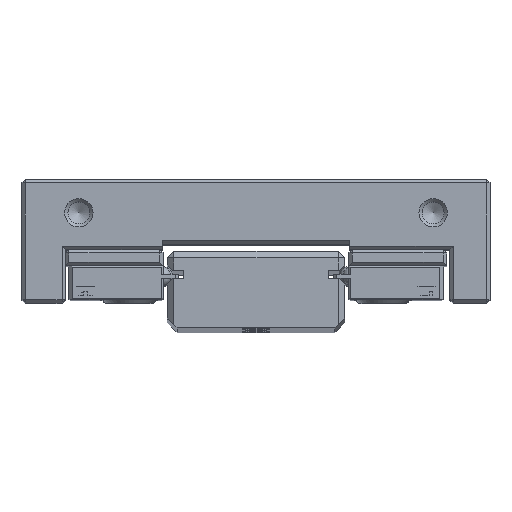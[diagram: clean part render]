
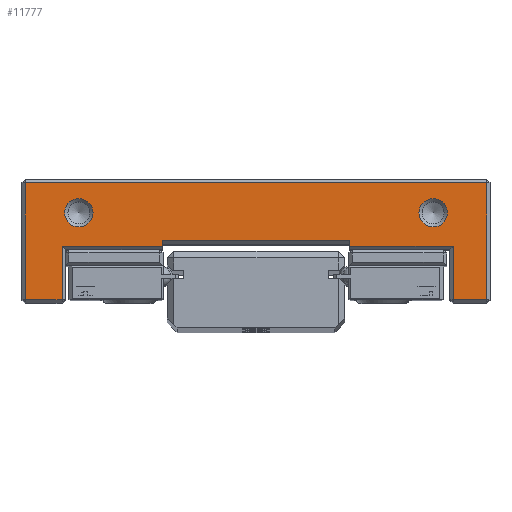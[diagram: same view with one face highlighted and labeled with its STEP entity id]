
A CAD part, top view. The second image highlights one B-rep face of the part: STEP entity #11777.
In plain terms, the highlighted planar face has unit normal (0, 0, 1).
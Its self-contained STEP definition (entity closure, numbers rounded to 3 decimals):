
#323=FACE_BOUND('',#1856,.T.);
#324=FACE_BOUND('',#1857,.T.);
#589=PLANE('',#12636);
#1156=FACE_OUTER_BOUND('',#1855,.T.);
#1855=EDGE_LOOP('',(#8628,#8629,#8630,#8631,#8632,#8633,#8634,#8635,#8636,
#8637,#8638,#8639));
#1856=EDGE_LOOP('',(#8640));
#1857=EDGE_LOOP('',(#8641));
#2758=LINE('',#18143,#3788);
#2759=LINE('',#18146,#3789);
#2766=LINE('',#18160,#3796);
#2773=LINE('',#18173,#3803);
#2787=LINE('',#18203,#3817);
#2794=LINE('',#18237,#3824);
#2795=LINE('',#18239,#3825);
#2796=LINE('',#18241,#3826);
#2797=LINE('',#18243,#3827);
#2798=LINE('',#18245,#3828);
#2799=LINE('',#18247,#3829);
#2800=LINE('',#18248,#3830);
#3788=VECTOR('',#14254,10.);
#3789=VECTOR('',#14257,10.);
#3796=VECTOR('',#14266,10.);
#3803=VECTOR('',#14275,10.);
#3817=VECTOR('',#14301,10.);
#3824=VECTOR('',#14342,10.);
#3825=VECTOR('',#14343,10.);
#3826=VECTOR('',#14344,10.);
#3827=VECTOR('',#14345,10.);
#3828=VECTOR('',#14346,10.);
#3829=VECTOR('',#14347,10.);
#3830=VECTOR('',#14348,10.);
#4575=CIRCLE('',#12634,2.121);
#4577=CIRCLE('',#12637,2.121);
#5239=VERTEX_POINT('',#18139);
#5240=VERTEX_POINT('',#18141);
#5241=VERTEX_POINT('',#18145);
#5246=VERTEX_POINT('',#18157);
#5247=VERTEX_POINT('',#18159);
#5252=VERTEX_POINT('',#18171);
#5271=VERTEX_POINT('',#18231);
#5272=VERTEX_POINT('',#18236);
#5273=VERTEX_POINT('',#18238);
#5274=VERTEX_POINT('',#18240);
#5275=VERTEX_POINT('',#18242);
#5276=VERTEX_POINT('',#18244);
#5277=VERTEX_POINT('',#18246);
#5278=VERTEX_POINT('',#18249);
#6491=EDGE_CURVE('',#5240,#5239,#2758,.T.);
#6492=EDGE_CURVE('',#5241,#5239,#2759,.T.);
#6499=EDGE_CURVE('',#5246,#5247,#2766,.T.);
#6506=EDGE_CURVE('',#5246,#5252,#2773,.T.);
#6522=EDGE_CURVE('',#5241,#5252,#2787,.T.);
#6536=EDGE_CURVE('',#5271,#5271,#4575,.T.);
#6538=EDGE_CURVE('',#5272,#5240,#2794,.T.);
#6539=EDGE_CURVE('',#5273,#5272,#2795,.T.);
#6540=EDGE_CURVE('',#5274,#5273,#2796,.T.);
#6541=EDGE_CURVE('',#5275,#5274,#2797,.T.);
#6542=EDGE_CURVE('',#5276,#5275,#2798,.T.);
#6543=EDGE_CURVE('',#5277,#5276,#2799,.T.);
#6544=EDGE_CURVE('',#5247,#5277,#2800,.T.);
#6545=EDGE_CURVE('',#5278,#5278,#4577,.T.);
#8628=ORIENTED_EDGE('',*,*,#6538,.F.);
#8629=ORIENTED_EDGE('',*,*,#6539,.F.);
#8630=ORIENTED_EDGE('',*,*,#6540,.F.);
#8631=ORIENTED_EDGE('',*,*,#6541,.F.);
#8632=ORIENTED_EDGE('',*,*,#6542,.F.);
#8633=ORIENTED_EDGE('',*,*,#6543,.F.);
#8634=ORIENTED_EDGE('',*,*,#6544,.F.);
#8635=ORIENTED_EDGE('',*,*,#6499,.F.);
#8636=ORIENTED_EDGE('',*,*,#6506,.T.);
#8637=ORIENTED_EDGE('',*,*,#6522,.F.);
#8638=ORIENTED_EDGE('',*,*,#6492,.T.);
#8639=ORIENTED_EDGE('',*,*,#6491,.F.);
#8640=ORIENTED_EDGE('',*,*,#6545,.F.);
#8641=ORIENTED_EDGE('',*,*,#6536,.F.);
#11777=ADVANCED_FACE('',(#1156,#323,#324),#589,.T.);
#12634=AXIS2_PLACEMENT_3D('',#18233,#14336,#14337);
#12636=AXIS2_PLACEMENT_3D('',#18235,#14340,#14341);
#12637=AXIS2_PLACEMENT_3D('',#18250,#14349,#14350);
#14254=DIRECTION('',(-1.,0.,0.));
#14257=DIRECTION('',(0.,-1.,0.));
#14266=DIRECTION('',(-1.,0.,0.));
#14275=DIRECTION('',(0.,1.,0.));
#14301=DIRECTION('',(-1.,0.,0.));
#14336=DIRECTION('center_axis',(0.,0.,
1.));
#14337=DIRECTION('ref_axis',(-1.,0.,0.));
#14340=DIRECTION('center_axis',(0.,0.,
1.));
#14341=DIRECTION('ref_axis',(-1.,0.,0.));
#14342=DIRECTION('',(0.,1.,0.));
#14343=DIRECTION('',(-1.,0.,0.));
#14344=DIRECTION('',(0.,-1.,0.));
#14345=DIRECTION('',(1.,0.,0.));
#14346=DIRECTION('',(0.,1.,0.));
#14347=DIRECTION('',(-1.,0.,0.));
#14348=DIRECTION('',(0.,-1.,0.));
#14349=DIRECTION('center_axis',(0.,0.,
1.));
#14350=DIRECTION('ref_axis',(-1.,0.,0.));
#18139=CARTESIAN_POINT('',(14.,6.75,-60.));
#18141=CARTESIAN_POINT('',(29.5,6.75,-60.));
#18143=CARTESIAN_POINT('',(14.5,6.75,-60.));
#18145=CARTESIAN_POINT('',(14.,7.55,-60.));
#18146=CARTESIAN_POINT('',(14.,7.05,-60.));
#18157=CARTESIAN_POINT('',(-14.,6.75,-60.));
#18159=CARTESIAN_POINT('',(-29.,6.75,-60.));
#18160=CARTESIAN_POINT('',(-7.,6.75,-60.));
#18171=CARTESIAN_POINT('',(-14.,7.55,-60.));
#18173=CARTESIAN_POINT('',(-14.,6.25,-60.));
#18203=CARTESIAN_POINT('',(7.,7.55,-60.));
#18231=CARTESIAN_POINT('',(-24.379,11.75,-60.));
#18233=CARTESIAN_POINT('Origin',(-26.5,11.75,-60.));
#18235=CARTESIAN_POINT('Origin',(0.,7.5,
-60.));
#18236=CARTESIAN_POINT('',(29.5,-1.25,-60.));
#18237=CARTESIAN_POINT('',(29.5,2.875,-60.));
#18238=CARTESIAN_POINT('',(34.5,-1.25,-60.));
#18239=CARTESIAN_POINT('',(17.5,-1.25,-60.));
#18240=CARTESIAN_POINT('',(34.5,16.25,-60.));
#18241=CARTESIAN_POINT('',(34.5,12.125,-60.));
#18242=CARTESIAN_POINT('',(-34.5,16.25,-60.));
#18243=CARTESIAN_POINT('',(-17.5,16.25,-60.));
#18244=CARTESIAN_POINT('',(-34.5,-1.25,-60.));
#18245=CARTESIAN_POINT('',(-34.5,2.875,-60.));
#18246=CARTESIAN_POINT('',(-29.,-1.25,-60.));
#18247=CARTESIAN_POINT('',(-14.25,-1.25,-60.));
#18248=CARTESIAN_POINT('',(-29.,6.875,-60.));
#18249=CARTESIAN_POINT('',(28.621,11.75,-60.));
#18250=CARTESIAN_POINT('Origin',(26.5,11.75,-60.));
